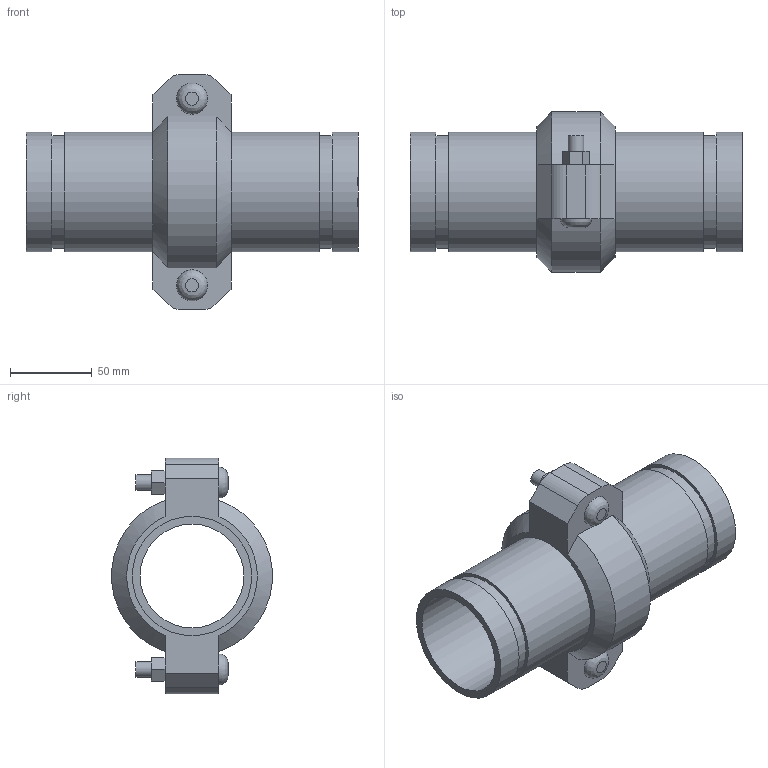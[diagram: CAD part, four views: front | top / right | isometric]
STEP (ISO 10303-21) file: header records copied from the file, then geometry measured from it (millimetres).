
FILE_DESCRIPTION(/* description */ ('VIC SS EXPANSION JOINT 1 COUPLING COMPRESSED STYLE 155P (OGS) (POTABLE WATER) ','CAx-IF Rec.Pracs.---Representation and Presentation of Product Manufacturing Information (PMI)---4.0---2014-10-13'),/* implementation_level */ '2;1');
FILE_NAME(/* name */ 'C:\Users\kkamble\AppData\Roaming\Autodesk\ApplicationPlugins\Victaulic.Temp\A829\Victaulic_SS_Expansion Joint_Compressed_1 Coupling_Style 155P (OGS)-Potable Water_1 Coup_Comp_2.5 (65).stp',/* time_stamp */ '2021-07-16T17:03:55+06:00',/* author */ ('kkamble'),/* organization */ ('Victaulic'),/* preprocessor_version */ 'ST-DEVELOPER v17.2',/* originating_system */ 'Autodesk Inventor 2019',/* authorisation */ '');
FILE_SCHEMA (('AP242_MANAGED_MODEL_BASED_3D_ENGINEERING_MIM_LF { 1 0 10303 442 1 1 4 }'));
Length unit declared in the file: inch
Products named in the file (3): 155P-02.5; Nipple-02.5; 075-02.5
Assembly tree (3 placements, depth 2):
  155P-02.5
    Nipple-02.5  x2
    075-02.5
Bounding box: 203.2 x 98.22 x 144.27 mm (x, y, z)
Volume: 408620 mm3; surface area: 137019.2 mm2
Topology: 3 solids, 5 shells, 77 faces, 187 edges, 134 vertices
Faces by surface type: plane 46, cylinder 25, cone 4, bspline 2
Full cylindrical faces by diameter (mm): 9.525 x4, 11.43 x2, 63.475 x2, 69.088 x4, 73.025 x7
Entity records: 2189 total; most frequent: CARTESIAN_POINT 406, DIRECTION 351, ORIENTED_EDGE 314, EDGE_CURVE 157, AXIS2_PLACEMENT_3D 133, VERTEX_POINT 110, LINE 85, VECTOR 85
